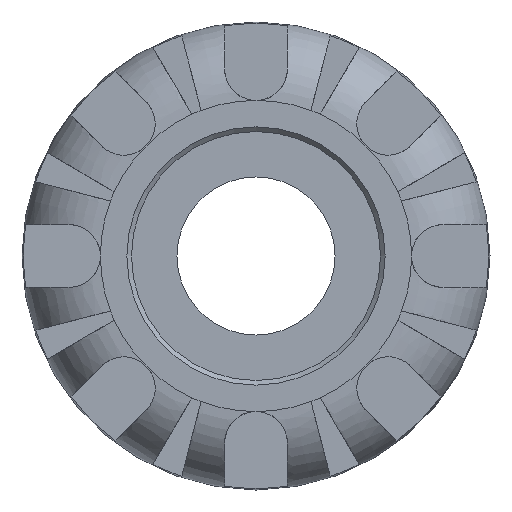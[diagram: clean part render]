
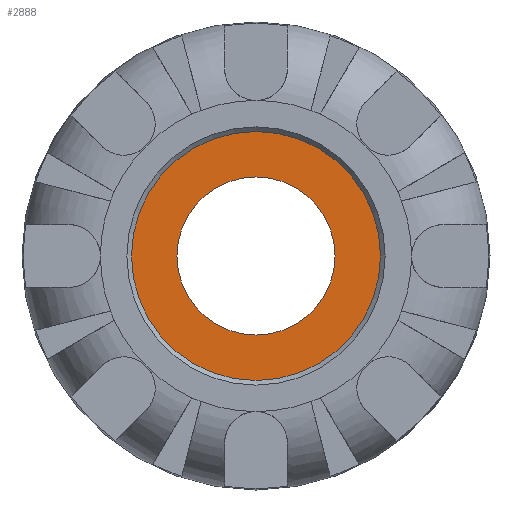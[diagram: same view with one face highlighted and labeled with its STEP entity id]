
A CAD part, left-side view. The second image highlights one B-rep face of the part: STEP entity #2888.
In plain terms, the highlighted planar face has unit normal (-1, 0, 0).
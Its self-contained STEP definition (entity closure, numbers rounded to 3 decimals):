
#37=FACE_BOUND('',#581,.T.);
#139=CIRCLE('',#3075,12.5);
#186=CIRCLE('',#3197,7.937);
#399=FACE_OUTER_BOUND('',#580,.T.);
#580=EDGE_LOOP('',(#2450));
#581=EDGE_LOOP('',(#2451));
#1140=VERTEX_POINT('',#5301);
#1239=VERTEX_POINT('',#6417);
#1474=EDGE_CURVE('',#1140,#1140,#139,.T.);
#1643=EDGE_CURVE('',#1239,#1239,#186,.T.);
#2450=ORIENTED_EDGE('',*,*,#1474,.F.);
#2451=ORIENTED_EDGE('',*,*,#1643,.T.);
#2559=PLANE('',#3198);
#2888=ADVANCED_FACE('',(#399,#37),#2559,.T.);
#3075=AXIS2_PLACEMENT_3D('',#5302,#3645,#3646);
#3197=AXIS2_PLACEMENT_3D('',#6418,#3957,#3958);
#3198=AXIS2_PLACEMENT_3D('',#6419,#3959,#3960);
#3645=DIRECTION('center_axis',(1.,0.,0.));
#3646=DIRECTION('ref_axis',(0.,0.,-1.));
#3957=DIRECTION('center_axis',(1.,0.,0.));
#3958=DIRECTION('ref_axis',(0.,0.,-1.));
#3959=DIRECTION('center_axis',(-1.,0.,0.));
#3960=DIRECTION('ref_axis',(0.,0.,1.));
#5301=CARTESIAN_POINT('',(-1.,12.5,0.));
#5302=CARTESIAN_POINT('Origin',(-1.,0.,
0.));
#6417=CARTESIAN_POINT('',(-1.,7.938,0.));
#6418=CARTESIAN_POINT('Origin',(-1.,0.,
0.));
#6419=CARTESIAN_POINT('Origin',(-1.,12.5,0.));
